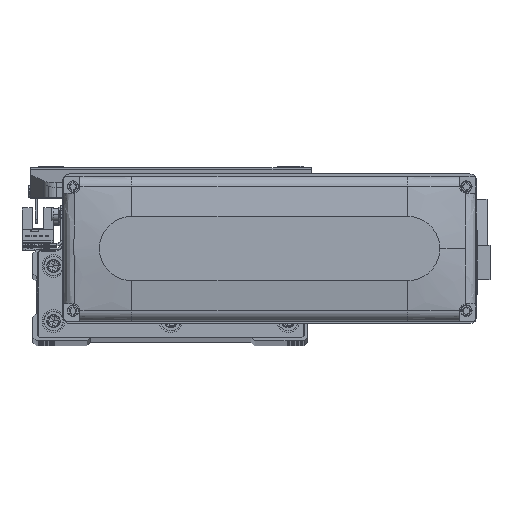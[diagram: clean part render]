
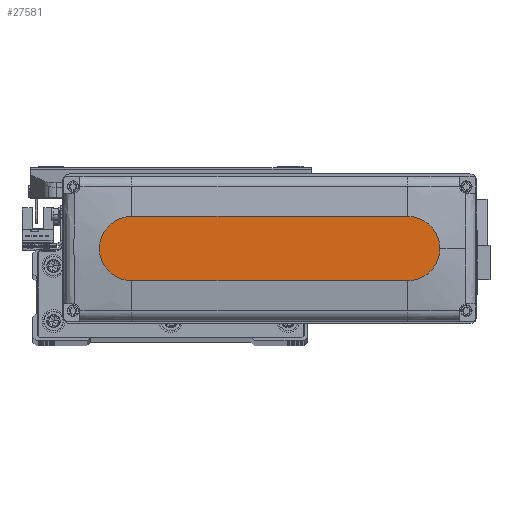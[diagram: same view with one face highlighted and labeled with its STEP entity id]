
A CAD part, top view. The second image highlights one B-rep face of the part: STEP entity #27581.
In plain terms, the highlighted planar face has unit normal (0, 0, 1).
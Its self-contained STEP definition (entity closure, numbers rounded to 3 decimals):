
#936 = DIRECTION ( 'NONE',  ( 1., 0., 0. ) ) ;
#962 = EDGE_CURVE ( 'NONE', #43629, #8020, #22942, .T. ) ;
#2862 = AXIS2_PLACEMENT_3D ( 'NONE', #45681, #11869, #20035 ) ;
#6271 = CARTESIAN_POINT ( 'NONE',  ( -60., -14., 28.5 ) ) ;
#8020 = VERTEX_POINT ( 'NONE', #25187 ) ;
#8940 = EDGE_LOOP ( 'NONE', ( #17303, #25435, #50324, #34243, #48148 ) ) ;
#9893 = DIRECTION ( 'NONE',  ( -1., 0., 0. ) ) ;
#10213 = DIRECTION ( 'NONE',  ( 1., 0., 0. ) ) ;
#10409 = VERTEX_POINT ( 'NONE', #44190 ) ;
#11487 = VERTEX_POINT ( 'NONE', #25637 ) ;
#11869 = DIRECTION ( 'NONE',  ( 0., 0., 1. ) ) ;
#12499 = DIRECTION ( 'NONE',  ( 1., 0., 0. ) ) ;
#12501 = EDGE_CURVE ( 'NONE', #45027, #10409, #44250, .T. ) ;
#13063 = AXIS2_PLACEMENT_3D ( 'NONE', #22069, #17856, #10213 ) ;
#13633 = DIRECTION ( 'NONE',  ( 0., 0., 1. ) ) ;
#15282 = EDGE_CURVE ( 'NONE', #10409, #11487, #41484, .T. ) ;
#17303 = ORIENTED_EDGE ( 'NONE', *, *, #41855, .T. ) ;
#17856 = DIRECTION ( 'NONE',  ( 0., 0., 1. ) ) ;
#18624 = CARTESIAN_POINT ( 'NONE',  ( -60., 14., 28.5 ) ) ;
#20035 = DIRECTION ( 'NONE',  ( 1., 0., 0. ) ) ;
#22069 = CARTESIAN_POINT ( 'NONE',  ( 60., 0., 28.5 ) ) ;
#22942 = CIRCLE ( 'NONE', #13063, 14. ) ;
#24060 = AXIS2_PLACEMENT_3D ( 'NONE', #50799, #25177, #12499 ) ;
#25177 = DIRECTION ( 'NONE',  ( 0., 0., 1. ) ) ;
#25187 = CARTESIAN_POINT ( 'NONE',  ( 60., 14., 28.5 ) ) ;
#25435 = ORIENTED_EDGE ( 'NONE', *, *, #12501, .T. ) ;
#25637 = CARTESIAN_POINT ( 'NONE',  ( 60., -14., 28.5 ) ) ;
#27581 = ADVANCED_FACE ( 'NONE', ( #28490 ), #41745, .T. ) ;
#28490 = FACE_OUTER_BOUND ( 'NONE', #8940, .T. ) ;
#31583 = LINE ( 'NONE', #18624, #40253 ) ;
#32299 = CARTESIAN_POINT ( 'NONE',  ( -60., 14., 28.5 ) ) ;
#34243 = ORIENTED_EDGE ( 'NONE', *, *, #45674, .T. ) ;
#37248 = DIRECTION ( 'NONE',  ( 1., 0., 0. ) ) ;
#38334 = VECTOR ( 'NONE', #37248, 1000. ) ;
#38885 = AXIS2_PLACEMENT_3D ( 'NONE', #39561, #13633, #936 ) ;
#39561 = CARTESIAN_POINT ( 'NONE',  ( -60., 0., 28.5 ) ) ;
#40253 = VECTOR ( 'NONE', #9893, 1000. ) ;
#41484 = LINE ( 'NONE', #6271, #38334 ) ;
#41745 = PLANE ( 'NONE',  #2862 ) ;
#41855 = EDGE_CURVE ( 'NONE', #8020, #45027, #31583, .T. ) ;
#43629 = VERTEX_POINT ( 'NONE', #52314 ) ;
#44190 = CARTESIAN_POINT ( 'NONE',  ( -60., -14., 28.5 ) ) ;
#44250 = CIRCLE ( 'NONE', #38885, 14. ) ;
#45027 = VERTEX_POINT ( 'NONE', #32299 ) ;
#45674 = EDGE_CURVE ( 'NONE', #11487, #43629, #48351, .T. ) ;
#45681 = CARTESIAN_POINT ( 'NONE',  ( 0., 0., 28.5 ) ) ;
#48148 = ORIENTED_EDGE ( 'NONE', *, *, #962, .T. ) ;
#48351 = CIRCLE ( 'NONE', #24060, 14. ) ;
#50324 = ORIENTED_EDGE ( 'NONE', *, *, #15282, .T. ) ;
#50799 = CARTESIAN_POINT ( 'NONE',  ( 60., 0., 28.5 ) ) ;
#52314 = CARTESIAN_POINT ( 'NONE',  ( 74., 0., 28.5 ) ) ;
